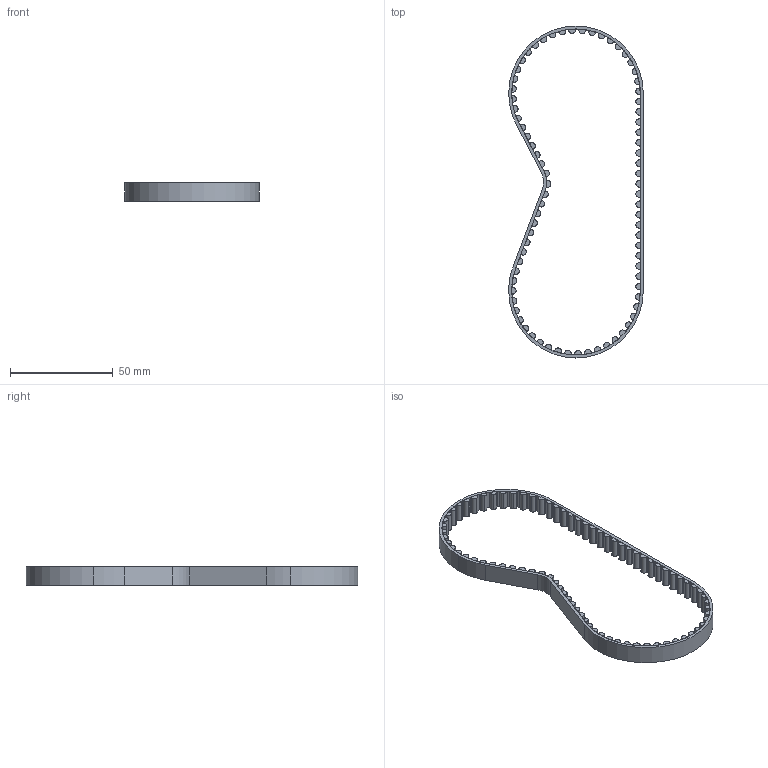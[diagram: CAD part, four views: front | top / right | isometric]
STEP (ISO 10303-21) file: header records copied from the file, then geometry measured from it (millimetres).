
FILE_DESCRIPTION (( 'STEP AP203' ), '1' );
FILE_NAME ('084.800.011.STEP', '2018-03-09T15:46:13', ( '' ), ( '' ), 'SwSTEP 2.0', 'SolidWorks 2016', '' );
FILE_SCHEMA (( 'CONFIG_CONTROL_DESIGN' ));
Length unit declared in the file: millimetre
Products named in the file (1): 084.800.011
Bounding box: 65.52 x 161.52 x 9 mm (x, y, z)
Volume: 9431.6 mm3; surface area: 16634.4 mm2
Topology: 80 solids, 80 shells, 729 faces, 1707 edges, 1138 vertices
Faces by surface type: plane 403, cylinder 326
Entity records: 20956 total; most frequent: DIRECTION 3819, CARTESIAN_POINT 3575, ORIENTED_EDGE 3414, EDGE_CURVE 1707, AXIS2_PLACEMENT_3D 1382, VERTEX_POINT 1138, LINE 1055, VECTOR 1055
